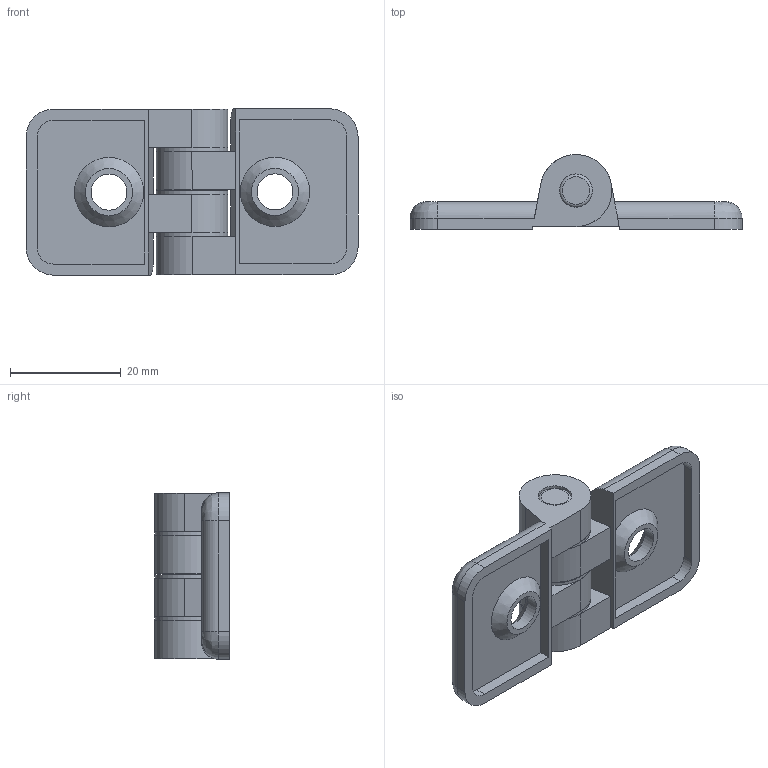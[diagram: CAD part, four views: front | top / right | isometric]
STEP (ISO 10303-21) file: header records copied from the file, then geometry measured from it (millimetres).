
FILE_DESCRIPTION(/* description */ (''),/* implementation_level */ '2;1');
FILE_NAME(/* name */ '\\NAS\db20\HC3060\DR_HC3060.stp',/* time_stamp */ '2018-08-10T17:58:14+09:00',/* author */ ('user'),/* organization */ (''),/* preprocessor_version */ 'ST-DEVELOPER v15.6',/* originating_system */ 'Autodesk Inventor 2015',/* authorisation */ '');
FILE_SCHEMA (('AUTOMOTIVE_DESIGN { 1 0 10303 214 3 1 1 }'));
Length unit declared in the file: millimetre
Products named in the file (4): DR_HC3060; DR_HC3060-PIN; DR_HC3060-WASHER
Bounding box: 60 x 13.48 x 30.05 mm (x, y, z)
Volume: 8511.9 mm3; surface area: 7713.7 mm2
Topology: 6 solids, 6 shells, 91 faces, 209 edges, 134 vertices
Faces by surface type: plane 50, cylinder 31, cone 4, bspline 4, torus 2
Full cylindrical faces by diameter (mm): 6 x5, 6.2 x3, 6.5 x2, 12.9 x3
Entity records: 1390 total; most frequent: DIRECTION 239, CARTESIAN_POINT 232, ORIENTED_EDGE 188, EDGE_CURVE 94, AXIS2_PLACEMENT_3D 91, EDGE_LOOP 66, VERTEX_POINT 66, LINE 57
